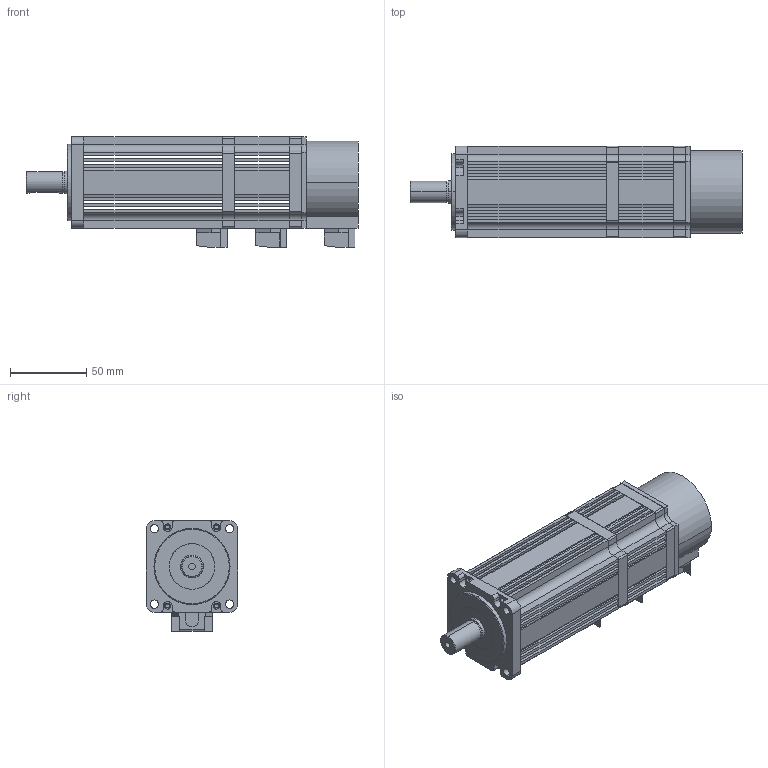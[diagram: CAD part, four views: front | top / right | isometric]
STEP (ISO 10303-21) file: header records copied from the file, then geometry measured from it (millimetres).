
FILE_DESCRIPTION (( 'STEP AP203' ), '1' );
FILE_NAME ('MS-60STE-M01330BZ-20P4.STEP', '2019-12-13T06:19:03', ( '' ), ( '' ), 'SwSTEP 2.0', 'SolidWorks 2016', '' );
FILE_SCHEMA (( 'CONFIG_CONTROL_DESIGN' ));
Length unit declared in the file: millimetre
Products named in the file (1): MS-60STE-M01330BZ-20P4
Bounding box: 218 x 60 x 72.5 mm (x, y, z)
Surface area: 74706.4 mm2 (no closed solid volume)
Topology: 0 solids, 12 shells, 420 faces, 1347 edges, 937 vertices
Faces by surface type: plane 283, cylinder 125, cone 12
Entity records: 15378 total; most frequent: CARTESIAN_POINT 3095, DIRECTION 2572, ORIENTED_EDGE 2376, EDGE_CURVE 1347, LINE 952, VECTOR 952, VERTEX_POINT 937, AXIS2_PLACEMENT_3D 810
